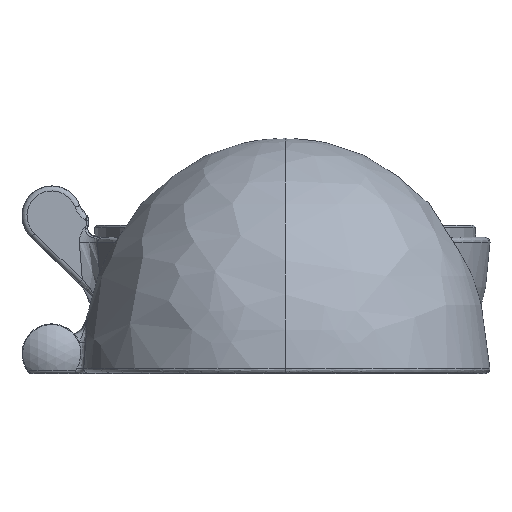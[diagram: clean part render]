
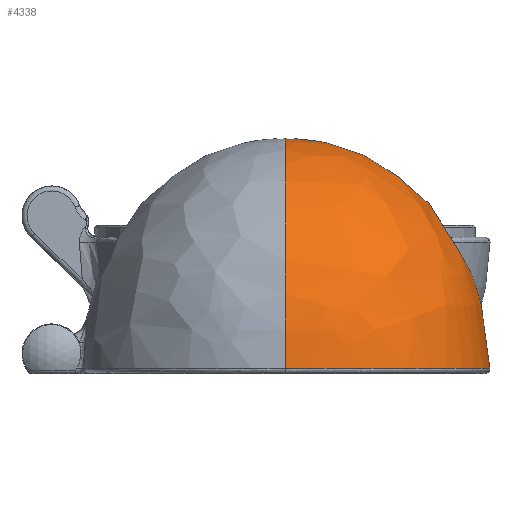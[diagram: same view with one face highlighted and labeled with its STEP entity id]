
A CAD part, left-side view. The second image highlights one B-rep face of the part: STEP entity #4338.
In plain terms, the highlighted free-form (B-spline) face has degree [3, 2] with [7, 5] control points.
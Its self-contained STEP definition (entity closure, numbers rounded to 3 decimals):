
#34=(
BOUNDED_CURVE()
B_SPLINE_CURVE(3,(#6555,#6556,#6557,#6558),.UNSPECIFIED.,.F.,.F.)
B_SPLINE_CURVE_WITH_KNOTS((4,4),(0.,0.983),.UNSPECIFIED.)
CURVE()
GEOMETRIC_REPRESENTATION_ITEM()
RATIONAL_B_SPLINE_CURVE((1.,1.,1.,1.))
REPRESENTATION_ITEM('')
);
#35=(
BOUNDED_CURVE()
B_SPLINE_CURVE(3,(#6559,#6560,#6561,#6562),.UNSPECIFIED.,.F.,.F.)
B_SPLINE_CURVE_WITH_KNOTS((4,4),(0.,0.983),.UNSPECIFIED.)
CURVE()
GEOMETRIC_REPRESENTATION_ITEM()
RATIONAL_B_SPLINE_CURVE((1.,1.,1.,1.))
REPRESENTATION_ITEM('')
);
#40=(
BOUNDED_SURFACE()
B_SPLINE_SURFACE(3,2,((#6519,#6520,#6521,#6522,#6523),(#6524,#6525,#6526,
#6527,#6528),(#6529,#6530,#6531,#6532,#6533),(#6534,#6535,#6536,#6537,#6538),
(#6539,#6540,#6541,#6542,#6543),(#6544,#6545,#6546,#6547,#6548),(#6549,
#6550,#6551,#6552,#6553)),.UNSPECIFIED.,.F.,.F.,.F.)
B_SPLINE_SURFACE_WITH_KNOTS((4,3,4),(3,2,3),(0.,0.992,1.033),
(0.,1.571,3.142),.UNSPECIFIED.)
GEOMETRIC_REPRESENTATION_ITEM()
RATIONAL_B_SPLINE_SURFACE(((1.,0.707,1.,0.707,1.),
(1.,0.707,1.,0.707,1.),(1.,0.707,1.,
0.707,1.),(1.,0.707,1.,0.707,1.),(1.,
0.707,1.,0.707,1.),(1.,0.707,1.,0.707,
1.),(1.,0.707,1.,0.707,1.)))
REPRESENTATION_ITEM('')
SURFACE()
);
#725=FACE_OUTER_BOUND('',#1016,.T.);
#1016=EDGE_LOOP('',(#2881,#2882,#2883));
#1328=B_SPLINE_CURVE_WITH_KNOTS('',3,(#6473,#6474,#6475,#6476,#6477,#6478,
#6479,#6480,#6481,#6482),.UNSPECIFIED.,.F.,.F.,(4,1,1,1,1,1,1,4),(0.,0.902,
1.803,2.705,3.606,4.508,5.41,
6.311),.UNSPECIFIED.);
#1695=VERTEX_POINT('',#6413);
#1696=VERTEX_POINT('',#6471);
#1697=VERTEX_POINT('',#6554);
#2140=EDGE_CURVE('',#1695,#1696,#1328,.T.);
#2142=EDGE_CURVE('',#1697,#1695,#34,.T.);
#2143=EDGE_CURVE('',#1697,#1696,#35,.T.);
#2881=ORIENTED_EDGE('',*,*,#2140,.F.);
#2882=ORIENTED_EDGE('',*,*,#2142,.F.);
#2883=ORIENTED_EDGE('',*,*,#2143,.T.);
#4338=ADVANCED_FACE('',(#725),#40,.F.);
#6413=CARTESIAN_POINT('',(-22.41,-7.955,-90.));
#6471=CARTESIAN_POINT('',(-63.59,-7.955,-90.));
#6473=CARTESIAN_POINT('Ctrl Pts',(-22.41,-7.955,-90.));
#6474=CARTESIAN_POINT('Ctrl Pts',(-22.41,-7.955,-86.92));
#6475=CARTESIAN_POINT('Ctrl Pts',(-23.816,-7.955,-80.762));
#6476=CARTESIAN_POINT('Ctrl Pts',(-29.723,-7.955,-73.352));
#6477=CARTESIAN_POINT('Ctrl Pts',(-38.262,-7.955,-69.238));
#6478=CARTESIAN_POINT('Ctrl Pts',(-47.738,-7.955,-69.242));
#6479=CARTESIAN_POINT('Ctrl Pts',(-56.278,-7.955,-73.35));
#6480=CARTESIAN_POINT('Ctrl Pts',(-62.184,-7.955,-80.763));
#6481=CARTESIAN_POINT('Ctrl Pts',(-63.59,-7.955,-86.92));
#6482=CARTESIAN_POINT('Ctrl Pts',(-63.59,-7.955,-90.));
#6519=CARTESIAN_POINT('Ctrl Pts',(-43.,15.193,-90.));
#6520=CARTESIAN_POINT('Ctrl Pts',(-43.,15.193,-90.));
#6521=CARTESIAN_POINT('Ctrl Pts',(-43.,15.193,-90.));
#6522=CARTESIAN_POINT('Ctrl Pts',(-43.,15.193,-90.));
#6523=CARTESIAN_POINT('Ctrl Pts',(-43.,15.193,-90.));
#6524=CARTESIAN_POINT('Ctrl Pts',(-31.629,15.193,-90.));
#6525=CARTESIAN_POINT('Ctrl Pts',(-31.629,15.193,-78.629));
#6526=CARTESIAN_POINT('Ctrl Pts',(-43.,15.193,-78.629));
#6527=CARTESIAN_POINT('Ctrl Pts',(-54.371,15.193,-78.629));
#6528=CARTESIAN_POINT('Ctrl Pts',(-54.371,15.193,-90.));
#6529=CARTESIAN_POINT('Ctrl Pts',(-22.641,5.519,-90.));
#6530=CARTESIAN_POINT('Ctrl Pts',(-22.641,5.519,-69.641));
#6531=CARTESIAN_POINT('Ctrl Pts',(-43.,5.519,-69.641));
#6532=CARTESIAN_POINT('Ctrl Pts',(-63.359,5.519,-69.641));
#6533=CARTESIAN_POINT('Ctrl Pts',(-63.359,5.519,-90.));
#6534=CARTESIAN_POINT('Ctrl Pts',(-22.402,-8.314,-90.));
#6535=CARTESIAN_POINT('Ctrl Pts',(-22.402,-8.314,-69.402));
#6536=CARTESIAN_POINT('Ctrl Pts',(-43.,-8.314,-69.402));
#6537=CARTESIAN_POINT('Ctrl Pts',(-63.598,-8.314,-69.402));
#6538=CARTESIAN_POINT('Ctrl Pts',(-63.598,-8.314,-90.));
#6539=CARTESIAN_POINT('Ctrl Pts',(-22.392,-8.884,-90.));
#6540=CARTESIAN_POINT('Ctrl Pts',(-22.392,-8.884,-69.392));
#6541=CARTESIAN_POINT('Ctrl Pts',(-43.,-8.884,-69.392));
#6542=CARTESIAN_POINT('Ctrl Pts',(-63.608,-8.884,-69.392));
#6543=CARTESIAN_POINT('Ctrl Pts',(-63.608,-8.884,-90.));
#6544=CARTESIAN_POINT('Ctrl Pts',(-22.382,-9.455,-90.));
#6545=CARTESIAN_POINT('Ctrl Pts',(-22.382,-9.455,-69.382));
#6546=CARTESIAN_POINT('Ctrl Pts',(-43.,-9.455,-69.382));
#6547=CARTESIAN_POINT('Ctrl Pts',(-63.618,-9.455,-69.382));
#6548=CARTESIAN_POINT('Ctrl Pts',(-63.618,-9.455,-90.));
#6549=CARTESIAN_POINT('Ctrl Pts',(-22.373,-10.025,-90.));
#6550=CARTESIAN_POINT('Ctrl Pts',(-22.373,-10.025,-69.373));
#6551=CARTESIAN_POINT('Ctrl Pts',(-43.,-10.025,-69.373));
#6552=CARTESIAN_POINT('Ctrl Pts',(-63.627,-10.025,-69.373));
#6553=CARTESIAN_POINT('Ctrl Pts',(-63.627,-10.025,-90.));
#6554=CARTESIAN_POINT('',(-43.,15.193,-90.));
#6555=CARTESIAN_POINT('Ctrl Pts',(-43.,15.193,-90.));
#6556=CARTESIAN_POINT('Ctrl Pts',(-31.728,15.193,-90.));
#6557=CARTESIAN_POINT('Ctrl Pts',(-22.797,5.686,-90.));
#6558=CARTESIAN_POINT('Ctrl Pts',(-22.41,-7.955,-90.));
#6559=CARTESIAN_POINT('Ctrl Pts',(-43.,15.193,-90.));
#6560=CARTESIAN_POINT('Ctrl Pts',(-54.272,15.193,-90.));
#6561=CARTESIAN_POINT('Ctrl Pts',(-63.203,5.686,-90.));
#6562=CARTESIAN_POINT('Ctrl Pts',(-63.59,-7.955,-90.));
